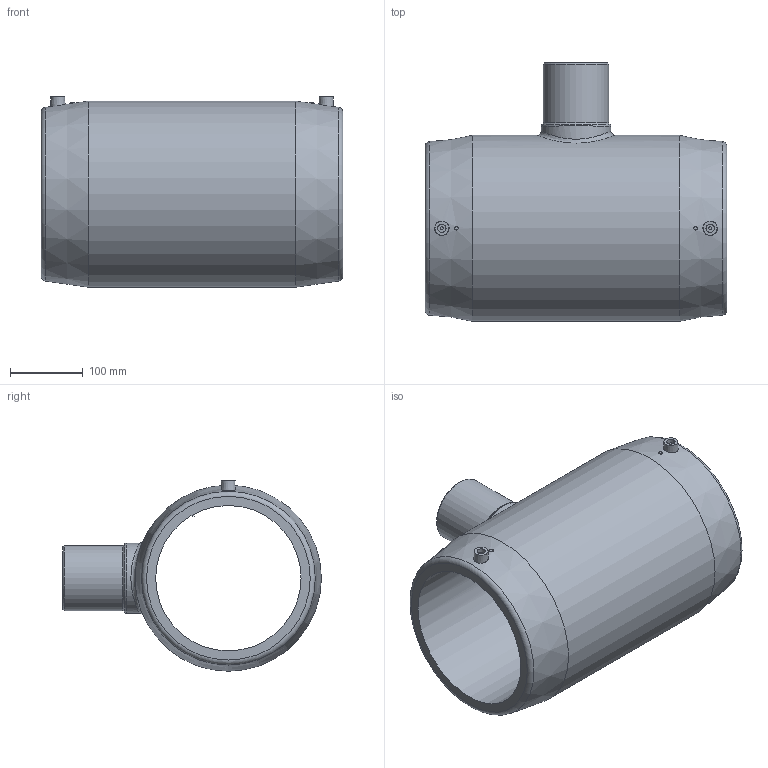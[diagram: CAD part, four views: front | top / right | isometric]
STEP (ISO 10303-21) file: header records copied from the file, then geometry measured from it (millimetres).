
FILE_DESCRIPTION(/* description */ ('Unknown'),/* implementation_level */ '2;1');
FILE_NAME(/* name */ 'TREP200090C',/* time_stamp */ '2020-12-15T16:43:48+01:00',/* author */ ('Unknown'),/* organization */ ('Unknown'),/* preprocessor_version */ 'ST-DEVELOPER v16.7',/* originating_system */ 'Solid Edge',/* authorisation */ 'Unknown');
FILE_SCHEMA (('AUTOMOTIVE_DESIGN {1 0 10303 214 3 1 1}'));
Length unit declared in the file: millimetre
Products named in the file (1): TREP200090C
Bounding box: 415 x 356 x 262 mm (x, y, z)
Volume: 7954889.7 mm3; surface area: 668126.3 mm2
Topology: 1 solids, 1 shells, 37 faces, 82 edges, 53 vertices
Faces by surface type: plane 16, cylinder 11, cone 6, torus 3, bspline 1
Full cylindrical faces by diameter (mm): 4 x2, 5 x2, 11.5 x2, 73.6 x1, 90 x1, 96 x1, 200 x1, 256 x1
Entity records: 1225 total; most frequent: CARTESIAN_POINT 538, DIRECTION 140, ORIENTED_EDGE 90, EDGE_LOOP 72, FACE_BOUND 72, AXIS2_PLACEMENT_3D 65, EDGE_CURVE 45, VERTEX_POINT 41
